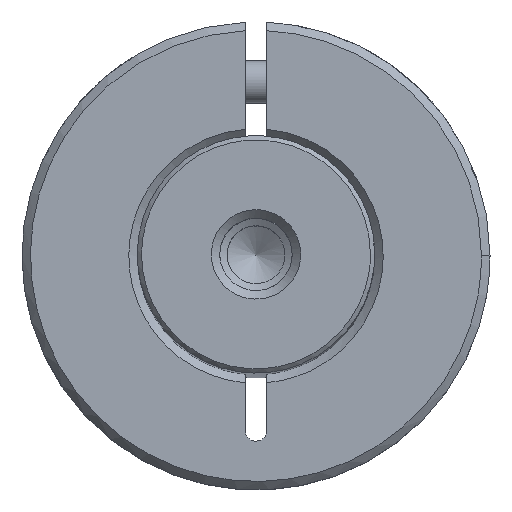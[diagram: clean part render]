
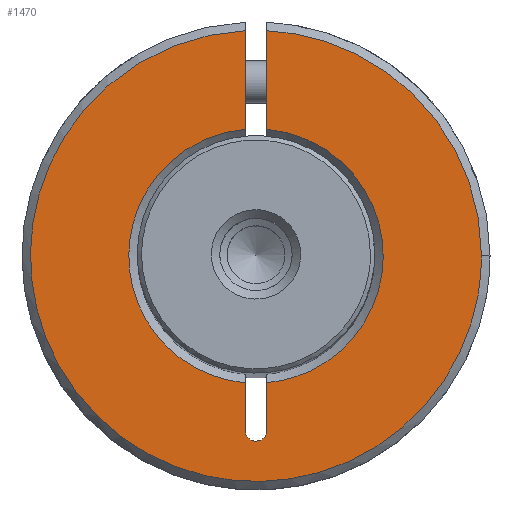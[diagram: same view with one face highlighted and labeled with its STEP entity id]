
A CAD part, top view. The second image highlights one B-rep face of the part: STEP entity #1470.
In plain terms, the highlighted free-form (B-spline) face has degree [1, 1] with [2, 2] control points.
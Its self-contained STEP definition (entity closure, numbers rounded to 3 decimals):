
#1385=CARTESIAN_POINT('',(-59.763,-52.395,-100.));
#1386=CARTESIAN_POINT('',(-59.763,52.395,-100.));
#1387=CARTESIAN_POINT('',(45.026,-52.395,-100.));
#1388=CARTESIAN_POINT('',(45.026,52.395,-100.));
#1389=B_SPLINE_SURFACE_WITH_KNOTS('',1,1,((#1385,#1386),(#1387,#1388)),.PLANE_SURF.,.F.,.F.,.U.,(2,2),(2,2),(0.,1.),(0.,1.),.UNSPECIFIED.);
#1390=CARTESIAN_POINT('',(26.5,0.,-100.));
#1391=VERTEX_POINT('',#1390);
#1392=CARTESIAN_POINT('',(1.25,26.471,-100.));
#1393=VERTEX_POINT('',#1392);
#1394=CARTESIAN_POINT('',(26.5,0.,-100.));
#1395=CARTESIAN_POINT('',(26.5,25.278,-100.));
#1396=CARTESIAN_POINT('',(1.25,26.471,-100.));
#1397=(BOUNDED_CURVE()B_SPLINE_CURVE(2,(#1394,#1395,#1396),.CIRCULAR_ARC.,.F.,.U.)B_SPLINE_CURVE_WITH_KNOTS((3,3),(0.,0.242),.UNSPECIFIED.)CURVE()GEOMETRIC_REPRESENTATION_ITEM()RATIONAL_B_SPLINE_CURVE((1.,0.717,0.981))REPRESENTATION_ITEM(''));
#1398=EDGE_CURVE('',#1391,#1393,#1397,.T.);
#1399=ORIENTED_EDGE('',*,*,#1398,.T.);
#1400=CARTESIAN_POINT('',(1.25,14.898,-100.));
#1401=VERTEX_POINT('',#1400);
#1402=CARTESIAN_POINT('',(1.25,14.898,-100.));
#1403=CARTESIAN_POINT('',(1.25,26.471,-100.));
#1404=B_SPLINE_CURVE_WITH_KNOTS('',1,(#1402,#1403),.POLYLINE_FORM.,.F.,.U.,(2,2),(0.647,0.788),.UNSPECIFIED.);
#1405=EDGE_CURVE('',#1401,#1393,#1404,.T.);
#1406=ORIENTED_EDGE('',*,*,#1405,.F.);
#1407=CARTESIAN_POINT('',(1.25,-14.898,-100.));
#1408=VERTEX_POINT('',#1407);
#1409=CARTESIAN_POINT('',(1.25,14.898,-100.));
#1410=CARTESIAN_POINT('',(14.95,13.748,-100.));
#1411=CARTESIAN_POINT('',(14.95,0.,-100.));
#1412=CARTESIAN_POINT('',(14.95,-13.748,-100.));
#1413=CARTESIAN_POINT('',(1.25,-14.898,-100.));
#1414=(BOUNDED_CURVE()B_SPLINE_CURVE(2,(#1409,#1410,#1411,#1412,#1413),.CIRCULAR_ARC.,.F.,.U.)B_SPLINE_CURVE_WITH_KNOTS((3,2,3),(0.,0.5,1.),.UNSPECIFIED.)CURVE()GEOMETRIC_REPRESENTATION_ITEM()RATIONAL_B_SPLINE_CURVE((1.,0.736,1.,0.736,1.))REPRESENTATION_ITEM(''));
#1415=EDGE_CURVE('',#1401,#1408,#1414,.T.);
#1416=ORIENTED_EDGE('',*,*,#1415,.T.);
#1417=CARTESIAN_POINT('',(1.25,-20.76,-100.));
#1418=VERTEX_POINT('',#1417);
#1419=CARTESIAN_POINT('',(1.25,-20.76,-100.));
#1420=CARTESIAN_POINT('',(1.25,-14.898,-100.));
#1421=B_SPLINE_CURVE_WITH_KNOTS('',1,(#1419,#1420),.POLYLINE_FORM.,.F.,.U.,(2,2),(0.213,0.284),.UNSPECIFIED.);
#1422=EDGE_CURVE('',#1418,#1408,#1421,.T.);
#1423=ORIENTED_EDGE('',*,*,#1422,.F.);
#1424=CARTESIAN_POINT('',(-1.25,-20.75,-100.));
#1425=VERTEX_POINT('',#1424);
#1426=CARTESIAN_POINT('',(-1.25,-20.75,-100.));
#1427=CARTESIAN_POINT('',(-1.036,-21.76,-100.));
#1428=CARTESIAN_POINT('',(-0.004,-21.764,-100.));
#1429=CARTESIAN_POINT('',(1.028,-21.768,-100.));
#1430=CARTESIAN_POINT('',(1.25,-20.76,-100.));
#1431=(BOUNDED_CURVE()B_SPLINE_CURVE(2,(#1426,#1427,#1428,#1429,#1430),.CIRCULAR_ARC.,.F.,.U.)B_SPLINE_CURVE_WITH_KNOTS((3,2,3),(0.,0.5,1.),.UNSPECIFIED.)CURVE()GEOMETRIC_REPRESENTATION_ITEM()RATIONAL_B_SPLINE_CURVE((1.,0.778,1.,0.778,1.))REPRESENTATION_ITEM(''));
#1432=EDGE_CURVE('',#1425,#1418,#1431,.T.);
#1433=ORIENTED_EDGE('',*,*,#1432,.F.);
#1434=CARTESIAN_POINT('',(-1.25,-14.898,-100.));
#1435=VERTEX_POINT('',#1434);
#1436=CARTESIAN_POINT('',(-1.25,-14.898,-100.));
#1437=CARTESIAN_POINT('',(-1.25,-20.75,-100.));
#1438=B_SPLINE_CURVE_WITH_KNOTS('',1,(#1436,#1437),.POLYLINE_FORM.,.F.,.U.,(2,2),(0.716,0.787),.UNSPECIFIED.);
#1439=EDGE_CURVE('',#1435,#1425,#1438,.T.);
#1440=ORIENTED_EDGE('',*,*,#1439,.F.);
#1441=CARTESIAN_POINT('',(-1.25,14.898,-100.));
#1442=VERTEX_POINT('',#1441);
#1443=CARTESIAN_POINT('',(-1.25,14.898,-100.));
#1444=CARTESIAN_POINT('',(-14.95,13.748,-100.));
#1445=CARTESIAN_POINT('',(-14.95,0.,-100.));
#1446=CARTESIAN_POINT('',(-14.95,-13.748,-100.));
#1447=CARTESIAN_POINT('',(-1.25,-14.898,-100.));
#1448=(BOUNDED_CURVE()B_SPLINE_CURVE(2,(#1443,#1444,#1445,#1446,#1447),.CIRCULAR_ARC.,.F.,.U.)B_SPLINE_CURVE_WITH_KNOTS((3,2,3),(0.265,0.5,0.735),.UNSPECIFIED.)CURVE()GEOMETRIC_REPRESENTATION_ITEM()RATIONAL_B_SPLINE_CURVE((0.968,0.724,1.,0.724,0.968))REPRESENTATION_ITEM(''));
#1449=EDGE_CURVE('',#1442,#1435,#1448,.T.);
#1450=ORIENTED_EDGE('',*,*,#1449,.F.);
#1451=CARTESIAN_POINT('',(-1.25,26.471,-100.));
#1452=VERTEX_POINT('',#1451);
#1453=CARTESIAN_POINT('',(-1.25,26.471,-100.));
#1454=CARTESIAN_POINT('',(-1.25,14.898,-100.));
#1455=B_SPLINE_CURVE_WITH_KNOTS('',1,(#1453,#1454),.POLYLINE_FORM.,.F.,.U.,(2,2),(0.212,0.353),.UNSPECIFIED.);
#1456=EDGE_CURVE('',#1452,#1442,#1455,.T.);
#1457=ORIENTED_EDGE('',*,*,#1456,.F.);
#1458=CARTESIAN_POINT('',(-1.25,26.471,-100.));
#1459=CARTESIAN_POINT('',(-26.5,25.278,-100.));
#1460=CARTESIAN_POINT('',(-26.5,0.,-100.));
#1461=CARTESIAN_POINT('',(-26.5,-26.5,-100.));
#1462=CARTESIAN_POINT('',(0.,-26.5,-100.));
#1463=CARTESIAN_POINT('',(26.5,-26.5,-100.));
#1464=CARTESIAN_POINT('',(26.5,0.,-100.));
#1465=(BOUNDED_CURVE()B_SPLINE_CURVE(2,(#1458,#1459,#1460,#1461,#1462,#1463,#1464),.CIRCULAR_ARC.,.F.,.U.)B_SPLINE_CURVE_WITH_KNOTS((3,2,2,3),(0.258,0.5,0.75,1.),.UNSPECIFIED.)CURVE()GEOMETRIC_REPRESENTATION_ITEM()RATIONAL_B_SPLINE_CURVE((0.981,0.717,1.,0.707,1.,0.707,1.))REPRESENTATION_ITEM(''));
#1466=EDGE_CURVE('',#1452,#1391,#1465,.T.);
#1467=ORIENTED_EDGE('',*,*,#1466,.T.);
#1468=EDGE_LOOP('',(#1399,#1406,#1416,#1423,#1433,#1440,#1450,#1457,#1467));
#1469=FACE_OUTER_BOUND('',#1468,.T.);
#1470=ADVANCED_FACE('',(#1469),#1389,.T.);
